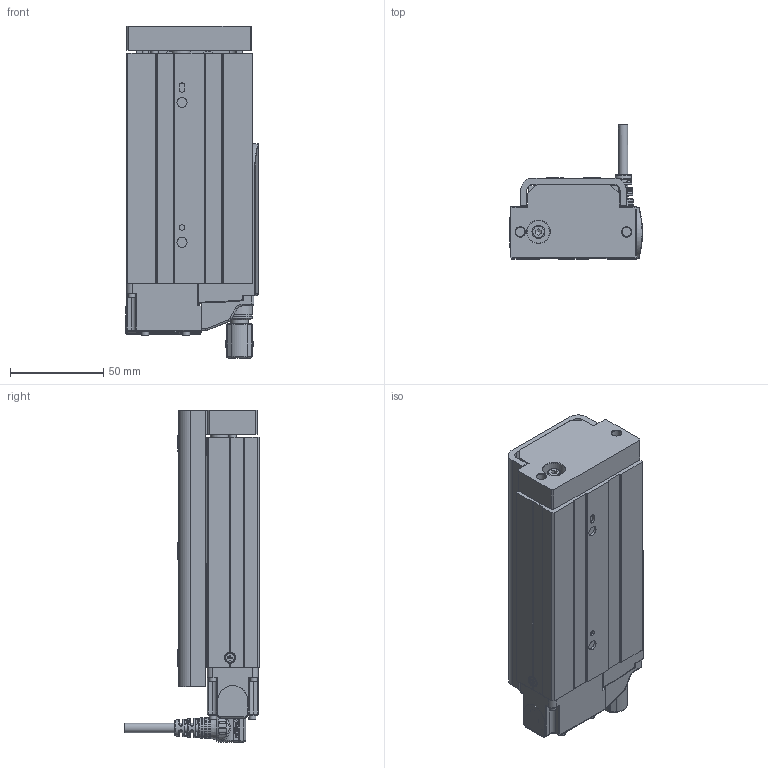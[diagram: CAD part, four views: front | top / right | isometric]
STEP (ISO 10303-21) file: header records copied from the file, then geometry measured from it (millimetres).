
FILE_DESCRIPTION(/* description */ ('STEP AP203'),/* implementation_level */ '2;1');
FILE_NAME(/* name */ 'D:\暫\2025.02.06 CSG 3D\CSG25-B\CSG25-S75-B-WW.stp',/* time_stamp */ '2025-02-08T10:37:49+08:00',/* author */ ('T10033'),/* organization */ (''),/* preprocessor_version */ 'ST-DEVELOPER v18.1',/* originating_system */ 'Autodesk Inventor 2020',/* authorisation */ '');
FILE_SCHEMA (('CONFIG_CONTROL_DESIGN'));
Products named in the file (26): CSG25-50行程-煞車; ©T©wªO-·¥­­¾×ª
O4-M2¤ú; M12 -14PIN  ªOºÝ-²Ä¤@ºØ
³W®æ; countersunk flat head cross recess screw_iso_ISO 7046-1 - M2.5 x 4 - 
Z - 4N; ¶ì½¦ºÝ»-L¼Ë¦¡(TOYO)-°
t¦XPCB(·Ù¨®¥Î)-DF3±µÀYª½
±µ©ñ¤Jª©; IS 2269 - M2 x 10; ISO 4762 - M2.5 x 6ISO; PCB; 43T34 TFSDR_Shrinkwrap_1; M12-14PIN 線端90度接頭-05中繼線; T632T6W34; 22035-000061(G4ªo¯]); countersunk flat head cross recess screw_iso_ISO 7046-1 - M2.5 x 4 - 
Z - 4N_1; ©T©wªO-·¥­­¾×ª
O4-M2¤ú_1; socket head cap screw_iso_ISO 4762 M2.5 x 6 - 6N; socket head cap screw_iso_ISO 4762 M2.5 x 8 - 8N; socket head cap screw_iso_ISO 4762 M2 x 12 - 12N; M12 -14PIN  ªOºÝ-²Ä¤@ºØ
³W®æ_1; CSG25-50¥»Åé3ª©-ªo¤Õ
½Õ¾ã¨¤«×; CSG25-Carriage-newtype; Solid1-2; 12003-000221-­×§ï; 22024-000496; CNS 3932 - M 4 x 0.7 x 12; socket head cap screw_iso_ISO 4762 M2.5 x 5 - 5N; CNS 4558 - M5 x 0.8 x 12
Assembly tree (37 placements, depth 3):
  CSG25-50行程-煞車
    ©T©wªO-·¥­­¾×ª
O4-M2¤ú
    M12 -14PIN  ªOºÝ-²Ä¤@ºØ
³W®æ
    countersunk flat head cross recess screw_iso_ISO 7046-1 - M2.5 x 4 - 
Z - 4N
    ¶ì½¦ºÝ»-L¼Ë¦¡(TOYO)-°
t¦XPCB(·Ù¨®¥Î)-DF3±µÀYª½
±µ©ñ¤Jª©
    IS 2269 - M2 x 10  x2
    ISO 4762 - M2.5 x 6ISO  x2
    PCB
    43T34 TFSDR_Shrinkwrap_1
    M12-14PIN 線端90度接頭-05中繼線
    T632T6W34
      22035-000061(G4ªo¯])
      socket head cap screw_iso_ISO 4762 M2.5 x 8 - 8N  x8
      countersunk flat head cross recess screw_iso_ISO 7046-1 - M2.5 x 4 - 
Z - 4N_1
      ©T©wªO-·¥­­¾×ª
O4-M2¤ú_1
      socket head cap screw_iso_ISO 4762 M2.5 x 6 - 6N  x2
      socket head cap screw_iso_ISO 4762 M2 x 12 - 12N  x2
      M12 -14PIN  ªOºÝ-²Ä¤@ºØ
³W®æ_1
      CSG25-50¥»Åé3ª©-ªo¤Õ
½Õ¾ã¨¤«×
      CSG25-Carriage-newtype
      Solid1-2
      12003-000221-­×§ï
      22024-000496
      CNS 3932 - M 4 x 0.7 x 12
      socket head cap screw_iso_ISO 4762 M2.5 x 5 - 5N
      CNS 4558 - M5 x 0.8 x 12  x2
Bounding box: 71.25 x 71.98 x 178 mm (x, y, z)
Volume: 362670.9 mm3; surface area: 99792.2 mm2
Topology: 51 solids, 60 shells, 3197 faces, 8687 edges, 5741 vertices
Faces by surface type: plane 1592, cylinder 629, bspline 482, cone 334, torus 147, sphere 13
Full cylindrical faces by diameter (mm): 0.6 x28, 0.65 x14, 1 x14, 1.567 x1, 1.6 x4, 2 x6, 2.05 x5, 2.5 x20, 2.9 x2, 3 x3, 3.8 x10, 4 x1, 4.134 x8, 4.5 x15, 4.7 x2, 4.95 x1, 5 x7, 5.2 x1, 5.3 x2, 5.4 x4, 5.5 x4, 6 x3, 7 x1, 8 x1, 8.9 x1, 9 x12, 9.5 x2, 9.6 x1, 10 x6, 10.4 x2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
Entity records: 121804 total; most frequent: CARTESIAN_POINT 44702, ORIENTED_EDGE 16105, DIRECTION 14952, EDGE_CURVE 8071, AXIS2_PLACEMENT_3D 5423, VERTEX_POINT 5362, LINE 4106, VECTOR 4106
